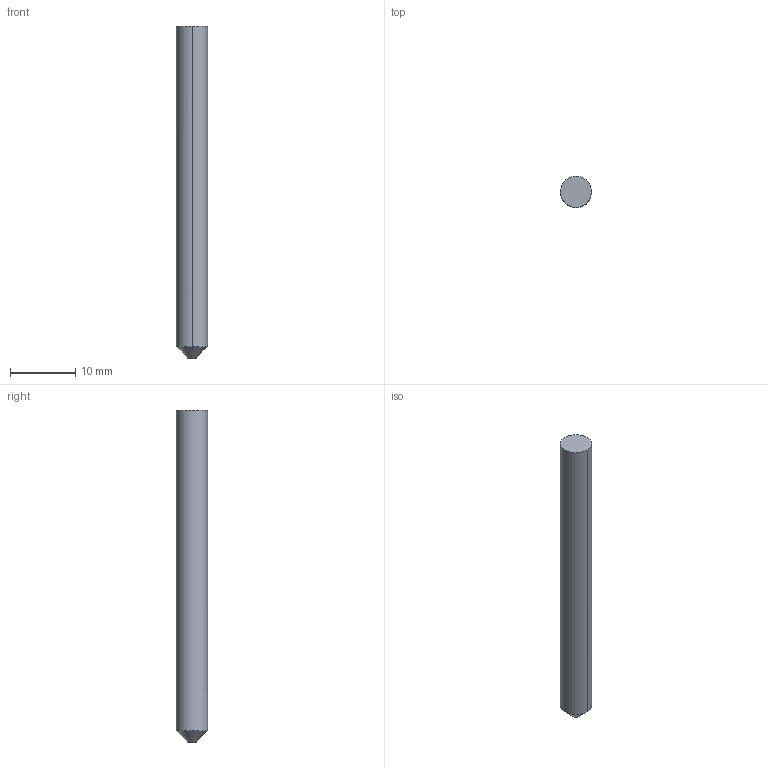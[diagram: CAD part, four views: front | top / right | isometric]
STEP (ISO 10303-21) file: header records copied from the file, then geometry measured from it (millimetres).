
FILE_DESCRIPTION((' '),'2;1');
FILE_NAME( '3HC018703.stp', '2026-01-21T09:07:58', (' '), ('--- Datakit www.datakit.com---'), ' Datakit CrossCadWare V2025.4 Sep 19 2025', 'Mastercam 2027', ' ');
FILE_SCHEMA(('AUTOMOTIVE_DESIGN { 1 0 10303 214 1 1 1 1 }'));
Length unit declared in the file: inch
Products named in the file (1): 3HC018703
Bounding box: 4.76 x 4.76 x 50.8 mm (x, y, z)
Volume: 887.7 mm3; surface area: 776.4 mm2
Topology: 1 solids, 1 shells, 8 faces, 16 edges, 10 vertices
Faces by surface type: cylinder 4, plane 2, cone 2
Entity records: 284 total; most frequent: DIRECTION 52, CARTESIAN_POINT 39, ORIENTED_EDGE 32, AXIS2_PLACEMENT_3D 23, EDGE_CURVE 16, VERTEX_POINT 10, CIRCLE 10, EDGE_LOOP 8
